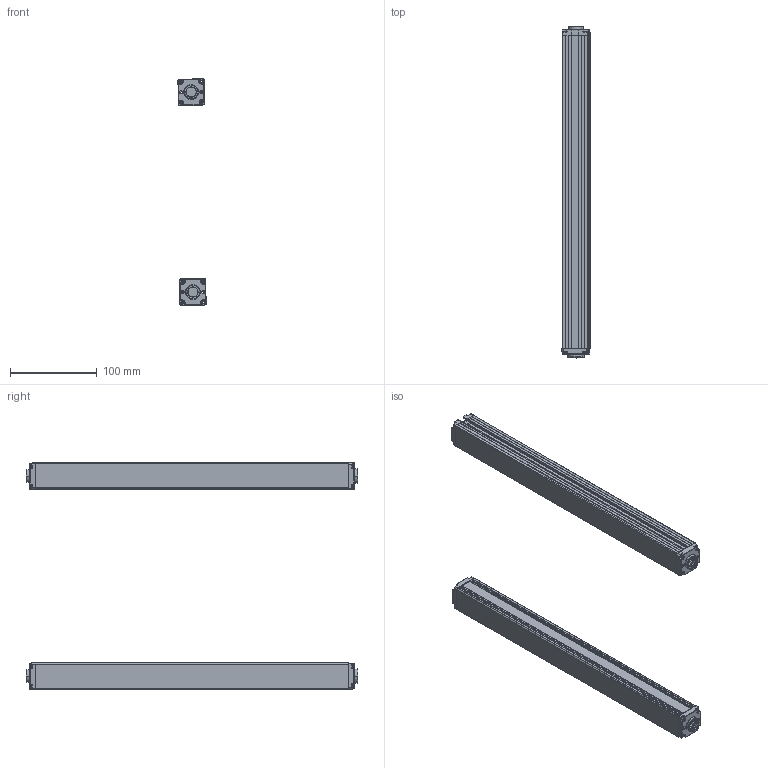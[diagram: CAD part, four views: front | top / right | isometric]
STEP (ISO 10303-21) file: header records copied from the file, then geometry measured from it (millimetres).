
FILE_DESCRIPTION (( 'STEP AP203' ), '1' );
FILE_NAME ('ZDA3410-360.STEP', '2022-08-30T03:43:45', ( 'Windows 蚚誧' ), ( 'Organization' ), 'SwSTEP 2.0', 'SolidWorks 2020', '' );
FILE_SCHEMA (( 'CONFIG_CONTROL_DESIGN' ));
Length unit declared in the file: millimetre
Products named in the file (5): 錨璃10; ZDA3410-360; 錨璃1; 錨璃8; 錨璃8 - 萵掛 (2)
Assembly tree (8 placements, depth 2):
  ZDA3410-360
    錨璃1  x2
    錨璃8  x2
    錨璃8 - 萵掛 (2)  x2
    錨璃10  x2
Bounding box: 32.36 x 381.4 x 260.35 mm (x, y, z)
Volume: 236009.3 mm3; surface area: 251812.3 mm2
Topology: 8 solids, 8 shells, 1032 faces, 2690 edges, 1668 vertices
Faces by surface type: plane 464, cylinder 310, cone 120, bspline 58, torus 48, sphere 32
Entity records: 17901 total; most frequent: CARTESIAN_POINT 4731, ORIENTED_EDGE 2666, DIRECTION 2616, EDGE_CURVE 1333, AXIS2_PLACEMENT_3D 894, VERTEX_POINT 834, VECTOR 828, LINE 828
